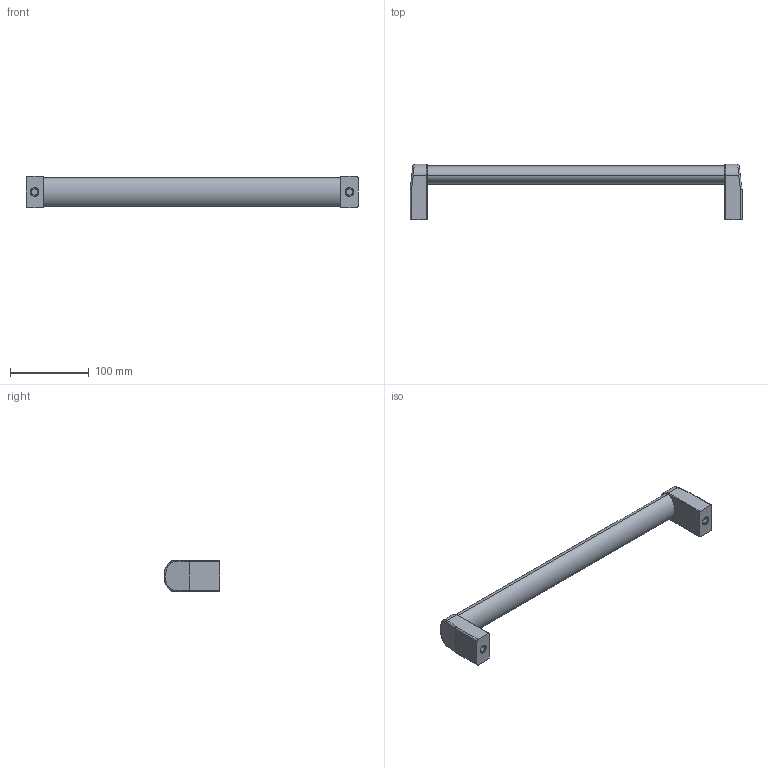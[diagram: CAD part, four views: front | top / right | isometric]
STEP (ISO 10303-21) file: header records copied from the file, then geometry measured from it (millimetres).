
FILE_DESCRIPTION (( 'STEP AP214' ), '1' );
FILE_NAME ('ETP-511B-40.STEP', '2020-03-24T09:16:41', ( '' ), ( '' ), 'SwSTEP 2.0', 'SolidWorks 2019', '' );
FILE_SCHEMA (( 'AUTOMOTIVE_DESIGN' ));
Length unit declared in the file: millimetre
Products named in the file (1): ETP-511B-40
Bounding box: 422 x 70.99 x 40 mm (x, y, z)
Volume: 370019.9 mm3; surface area: 54563.8 mm2
Topology: 1 solids, 1 shells, 44 faces, 96 edges, 60 vertices
Faces by surface type: cylinder 20, plane 16, bspline 8
Entity records: 2266 total; most frequent: CARTESIAN_POINT 1309, ORIENTED_EDGE 192, DIRECTION 186, EDGE_CURVE 96, AXIS2_PLACEMENT_3D 69, VERTEX_POINT 60, EDGE_LOOP 50, VECTOR 48
